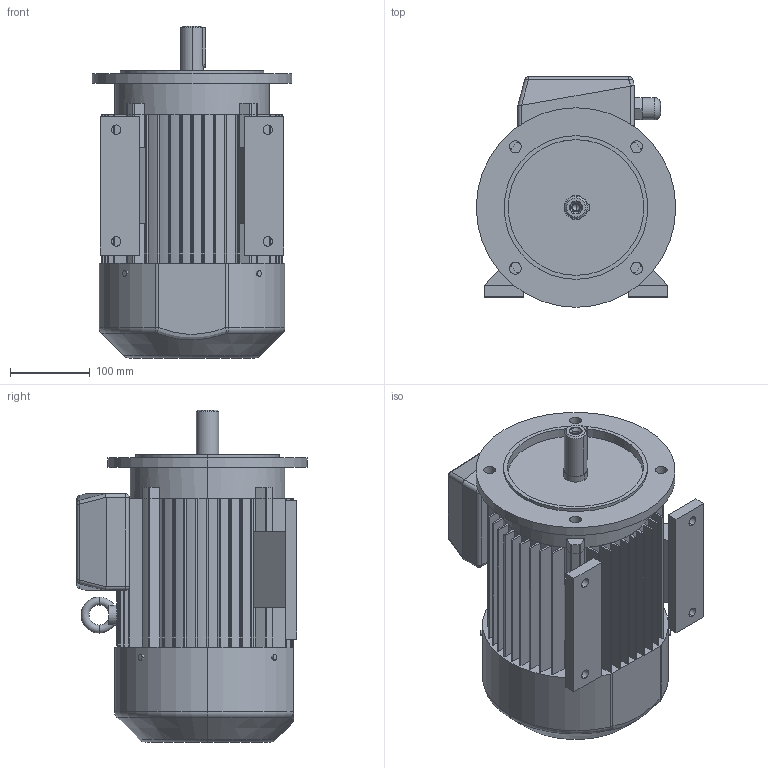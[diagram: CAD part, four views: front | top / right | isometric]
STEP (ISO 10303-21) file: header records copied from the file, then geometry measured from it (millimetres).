
FILE_DESCRIPTION (( 'STEP AP203' ), '1' );
FILE_NAME ('2SIEL112M4.STEP', '2012-10-26T12:39:58', ( 'INDUKTA' ), ( 'CANTONI MOTOR' ), 'SwSTEP 2.0', 'SolidWorks 2003064', '' );
FILE_SCHEMA (( 'CONFIG_CONTROL_DESIGN' ));
Length unit declared in the file: millimetre
Products named in the file (1): 2SIEL112M4
Bounding box: 250 x 289 x 416 mm (x, y, z)
Volume: 13896472.4 mm3; surface area: 843083 mm2
Topology: 14 solids, 14 shells, 449 faces, 1200 edges, 766 vertices
Faces by surface type: plane 207, cylinder 206, torus 13, cone 12, sphere 10, bspline 1
Entity records: 14926 total; most frequent: CARTESIAN_POINT 3439, DIRECTION 2467, ORIENTED_EDGE 2376, EDGE_CURVE 1188, AXIS2_PLACEMENT_3D 881, VERTEX_POINT 766, LINE 705, VECTOR 705
